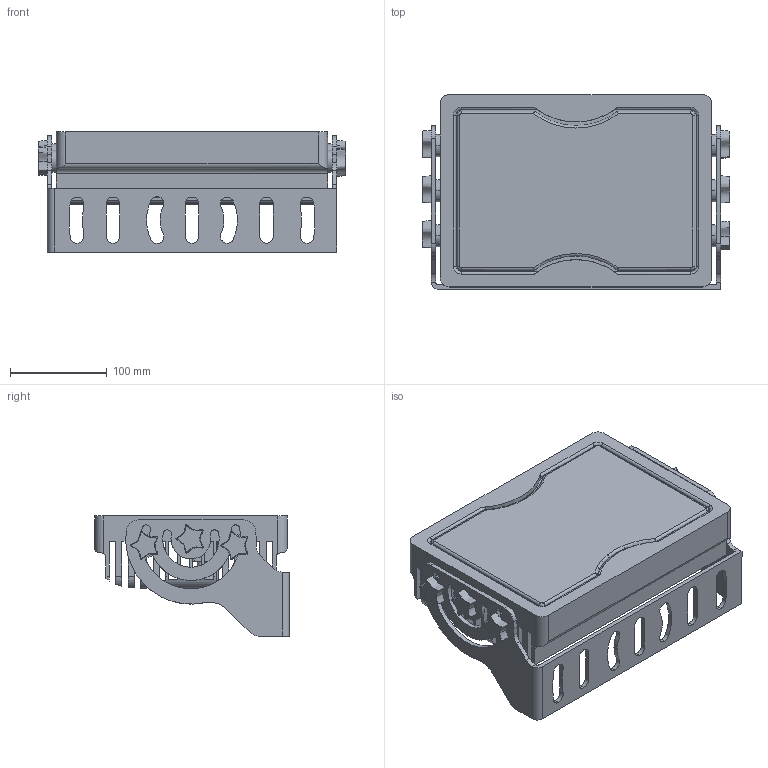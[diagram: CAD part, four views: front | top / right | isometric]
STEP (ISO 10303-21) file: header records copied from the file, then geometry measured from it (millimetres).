
FILE_DESCRIPTION (( 'STEP AP203' ), '1' );
FILE_NAME ('LEDP5W-30.STEP', '2013-10-01T16:54:02', ( 'upslen' ), ( '' ), 'SwSTEP 2.0', 'SolidWorks 2013', '' );
FILE_SCHEMA (( 'CONFIG_CONTROL_DESIGN' ));
Length unit declared in the file: inch
Products named in the file (4): LEDP5W-30 12V Part 1; LEDP5W-30 12V Part 2; LEDP5W-30 12V Part 3; LEDP5W-30
Assembly tree (8 placements, depth 2):
  LEDP5W-30
    LEDP5W-30 12V Part 1
    LEDP5W-30 12V Part 2
    LEDP5W-30 12V Part 3  x6
Bounding box: 317.35 x 200.91 x 124.08 mm (x, y, z)
Volume: 2886264.8 mm3; surface area: 616546.8 mm2
Topology: 8 solids, 8 shells, 463 faces, 1295 edges, 824 vertices
Faces by surface type: cylinder 204, plane 167, bspline 82, torus 10
Entity records: 19022 total; most frequent: CARTESIAN_POINT 8313, ORIENTED_EDGE 2160, DIRECTION 2145, EDGE_CURVE 1080, AXIS2_PLACEMENT_3D 769, VERTEX_POINT 709, VECTOR 607, LINE 607
